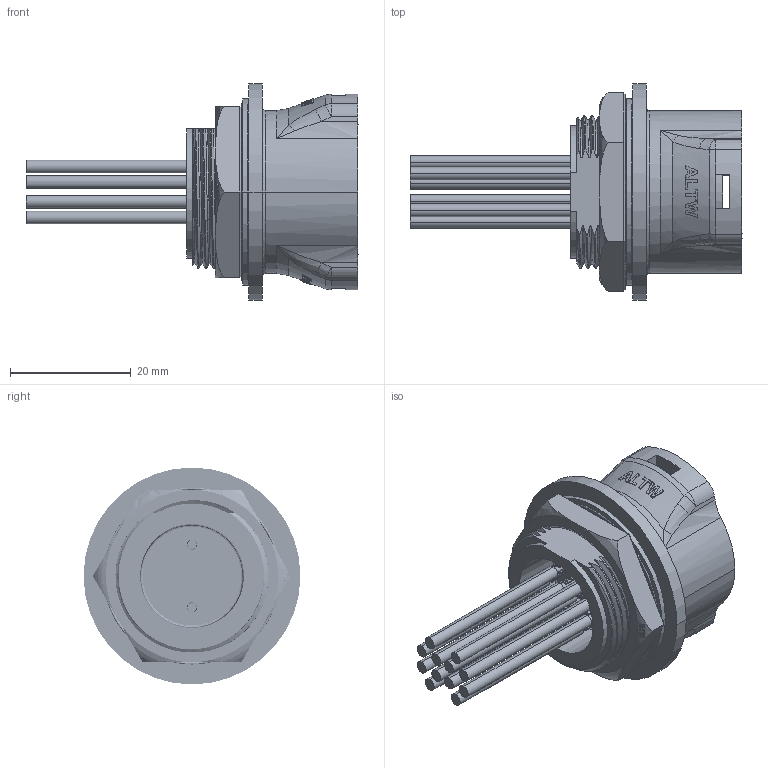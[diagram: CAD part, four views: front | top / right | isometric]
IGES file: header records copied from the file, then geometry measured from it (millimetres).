
Start section:  PTC IGES file: dd-12rfms-rc8cxx_sw0001.igs
Global section: file name: dd-12rfms-rc8cxx_sw0001.igs; native system: Creo Parametric by Parametric Technology Corporation; preprocessor: 2017170; author: L100003; organization: Unknown; date: 20211015.131530; units: millimetre
Bounding box: 55.09 x 36 x 36 mm (x, y, z)
Volume: 12011.6 mm3; surface area: 12890.8 mm2
Topology: 2 solids, 2 shells, 2146 faces, 6133 edges, 4060 vertices
Faces by surface type: bspline 1061, revolution 833, extrusion 252
